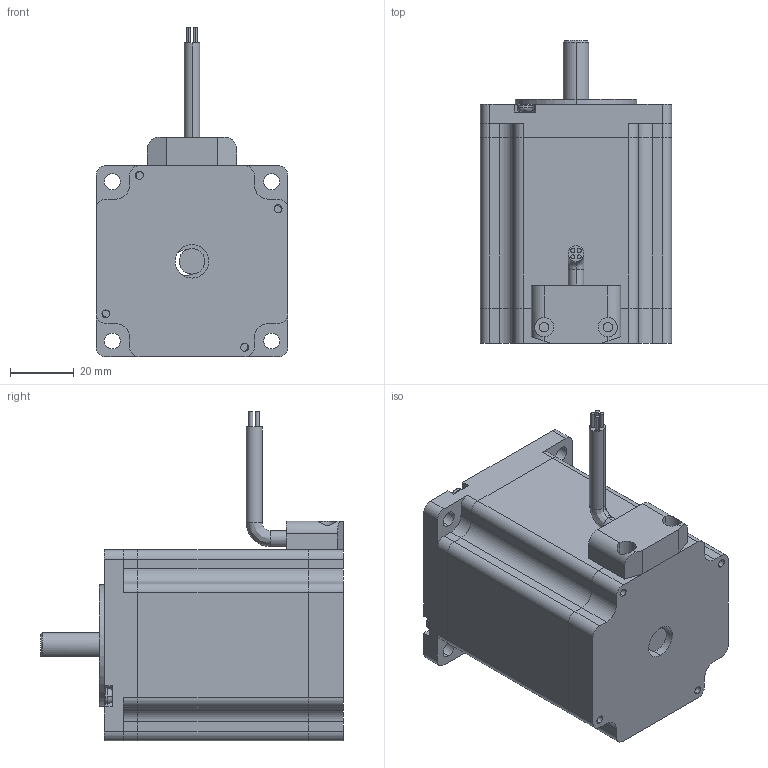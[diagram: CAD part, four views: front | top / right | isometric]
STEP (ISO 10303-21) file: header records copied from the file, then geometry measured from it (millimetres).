
FILE_DESCRIPTION (( 'STEP AP214' ), '1' );
FILE_NAME ('60BYGH276-8-A.STEP', '2020-05-21T07:32:01', ( 'Windows' ), ( 'Microsoft' ), 'SwSTEP 2.0', 'SolidWorks 2015', '' );
FILE_SCHEMA (( 'AUTOMOTIVE_DESIGN' ));
Length unit declared in the file: millimetre
Products named in the file (7): 60BYGH276-8-A; 60BYGH276-A-8; 60隅赽53.5; 60綴傷裔; 60ヶ傷裔; 揤盄裔; M3蹟隊
Assembly tree (9 placements, depth 2):
  60BYGH276-8-A
    60BYGH276-A-8
    60隅赽53.5
    60綴傷裔
    60ヶ傷裔
    M3蹟隊  x4
    揤盄裔
Bounding box: 60 x 95 x 103.5 mm (x, y, z)
Volume: 246420.8 mm3; surface area: 47777.5 mm2
Topology: 9 solids, 9 shells, 283 faces, 731 edges, 476 vertices
Faces by surface type: cylinder 138, plane 125, bspline 18, cone 2
Entity records: 9449 total; most frequent: CARTESIAN_POINT 1331, DIRECTION 1214, ORIENTED_EDGE 1120, EDGE_CURVE 560, AXIS2_PLACEMENT_3D 445, VERTEX_POINT 368, VECTOR 324, LINE 324
